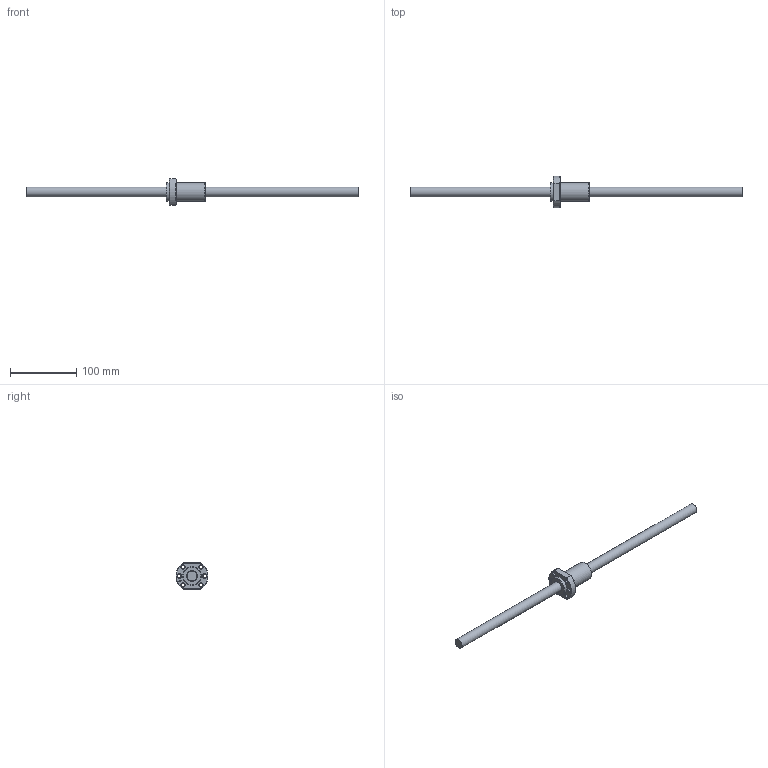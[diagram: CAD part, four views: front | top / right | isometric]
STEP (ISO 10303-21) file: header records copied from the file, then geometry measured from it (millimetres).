
FILE_DESCRIPTION (( 'STEP AP203' ), '1' );
FILE_NAME ('SFA1616-3.8.step', '2024-05-07T07:24:53', ( '' ), ( '' ), 'SwSTEP 2.0', 'SolidWorks 2022', '' );
FILE_SCHEMA (( 'CONFIG_CONTROL_DESIGN' ));
Length unit declared in the file: millimetre
Products named in the file (1): SFA1616-3.8
Bounding box: 500 x 48 x 40 mm (x, y, z)
Volume: 120625.6 mm3; surface area: 36521.3 mm2
Topology: 2 solids, 2 shells, 57 faces, 130 edges, 79 vertices
Faces by surface type: cylinder 20, plane 13, cone 13, torus 6, bspline 5
Full cylindrical faces by diameter (mm): 4 x1, 5 x6, 5.5 x6, 15 x1, 16.6 x1, 28 x2
Entity records: 3129 total; most frequent: CARTESIAN_POINT 2082, DIRECTION 198, ORIENTED_EDGE 156, EDGE_LOOP 96, AXIS2_PLACEMENT_3D 91, EDGE_CURVE 78, FACE_OUTER_BOUND 65, VERTEX_POINT 62
